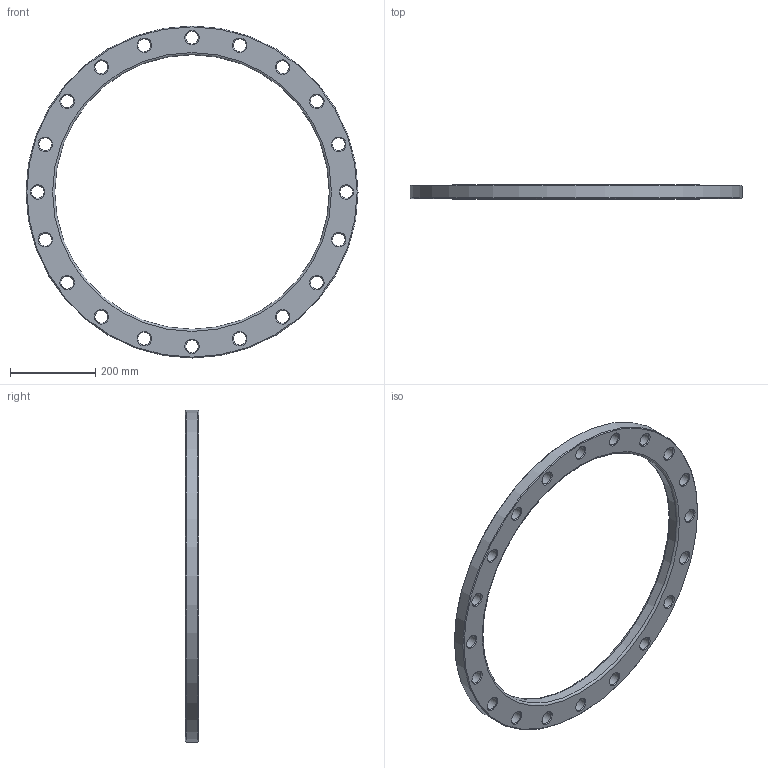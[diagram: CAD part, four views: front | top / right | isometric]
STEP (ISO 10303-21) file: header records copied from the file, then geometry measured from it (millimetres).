
FILE_DESCRIPTION(/* description */ ('Unknown'),/* implementation_level */ '2;1');
FILE_NAME(/* name */ 'FZ630B',/* time_stamp */ '2021-03-15T11:03:39+01:00',/* author */ ('Unknown'),/* organization */ ('Unknown'),/* preprocessor_version */ 'ST-DEVELOPER v16.7',/* originating_system */ 'Solid Edge',/* authorisation */ 'Unknown');
FILE_SCHEMA (('AUTOMOTIVE_DESIGN {1 0 10303 214 3 1 1}'));
Length unit declared in the file: millimetre
Products named in the file (1): FZ630B
Bounding box: 780 x 32 x 780 mm (x, y, z)
Volume: 4343043.8 mm3; surface area: 458847.3 mm2
Topology: 1 solids, 1 shells, 68 faces, 214 edges, 148 vertices
Faces by surface type: cone 42, cylinder 22, plane 2, torus 2
Full cylindrical faces by diameter (mm): 30 x20, 645 x1, 780 x1
Entity records: 1678 total; most frequent: DIRECTION 314, CARTESIAN_POINT 245, ORIENTED_EDGE 176, EDGE_LOOP 176, FACE_BOUND 176, AXIS2_PLACEMENT_3D 157, EDGE_CURVE 88, VERTEX_POINT 88
